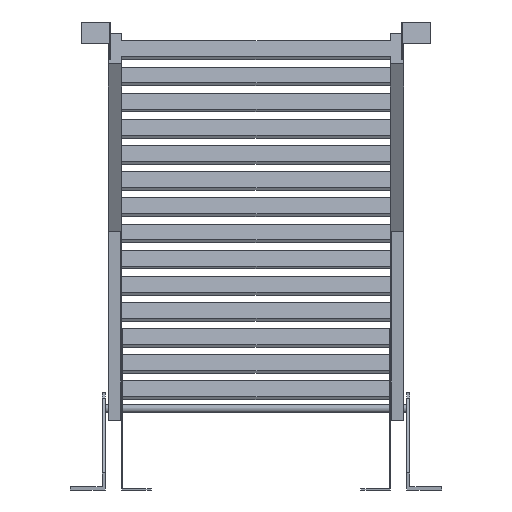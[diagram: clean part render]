
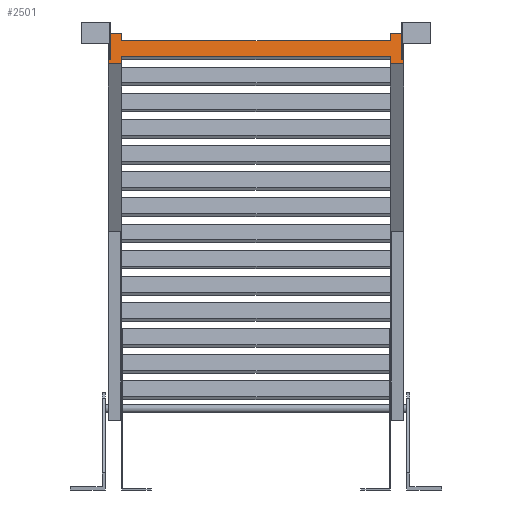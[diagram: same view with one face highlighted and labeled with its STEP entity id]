
A CAD part, front view. The second image highlights one B-rep face of the part: STEP entity #2501.
In plain terms, the highlighted planar face has unit normal (0, -0.985, 0.174).
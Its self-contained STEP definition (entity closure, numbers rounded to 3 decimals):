
#769=DIRECTION('',(1.,0.,0.));
#770=VECTOR('',#769,500.);
#771=CARTESIAN_POINT('',(-250.,-3488.227,805.214));
#772=LINE('',#771,#770);
#777=DIRECTION('',(0.,0.174,0.985));
#778=VECTOR('',#777,13.5);
#779=CARTESIAN_POINT('',(-250.,-3483.017,834.758));
#780=LINE('',#779,#778);
#781=DIRECTION('',(0.,-0.174,-0.985));
#782=VECTOR('',#781,13.5);
#783=CARTESIAN_POINT('',(250.,-3480.673,848.053));
#784=LINE('',#783,#782);
#785=DIRECTION('',(-1.,0.,0.));
#786=VECTOR('',#785,25.);
#787=CARTESIAN_POINT('',(275.,-3480.673,848.053));
#788=LINE('',#787,#786);
#789=DIRECTION('',(0.,0.174,0.985));
#790=VECTOR('',#789,57.);
#791=CARTESIAN_POINT('',(275.,-3490.571,791.919));
#792=LINE('',#791,#790);
#793=DIRECTION('',(1.,0.,0.));
#794=VECTOR('',#793,25.);
#795=CARTESIAN_POINT('',(250.,-3490.571,791.919));
#796=LINE('',#795,#794);
#797=DIRECTION('',(0.,-0.174,-0.985));
#798=VECTOR('',#797,13.5);
#799=CARTESIAN_POINT('',(250.,-3488.227,805.214));
#800=LINE('',#799,#798);
#801=DIRECTION('',(0.,0.174,0.985));
#802=VECTOR('',#801,13.5);
#803=CARTESIAN_POINT('',(-250.,-3490.571,791.919));
#804=LINE('',#803,#802);
#805=DIRECTION('',(1.,0.,0.));
#806=VECTOR('',#805,25.);
#807=CARTESIAN_POINT('',(-275.,-3490.571,791.919));
#808=LINE('',#807,#806);
#809=DIRECTION('',(0.,-0.174,-0.985));
#810=VECTOR('',#809,57.);
#811=CARTESIAN_POINT('',(-275.,-3480.673,848.053));
#812=LINE('',#811,#810);
#813=DIRECTION('',(-1.,0.,0.));
#814=VECTOR('',#813,25.);
#815=CARTESIAN_POINT('',(-250.,-3480.673,848.053));
#816=LINE('',#815,#814);
#817=DIRECTION('',(1.,0.,0.));
#818=VECTOR('',#817,2.);
#819=CARTESIAN_POINT('',(-273.,-3489.095,800.29));
#820=LINE('',#819,#818);
#821=DIRECTION('',(0.,0.174,0.985));
#822=VECTOR('',#821,40.);
#823=CARTESIAN_POINT('',(-271.,-3489.095,800.29));
#824=LINE('',#823,#822);
#825=DIRECTION('',(1.,0.,0.));
#826=VECTOR('',#825,2.);
#827=CARTESIAN_POINT('',(-273.,-3482.149,839.682));
#828=LINE('',#827,#826);
#829=DIRECTION('',(0.,0.174,0.985));
#830=VECTOR('',#829,40.);
#831=CARTESIAN_POINT('',(-273.,-3489.095,800.29));
#832=LINE('',#831,#830);
#833=DIRECTION('',(1.,0.,0.));
#834=VECTOR('',#833,2.);
#835=CARTESIAN_POINT('',(271.,-3489.095,800.29));
#836=LINE('',#835,#834);
#837=DIRECTION('',(0.,0.174,0.985));
#838=VECTOR('',#837,40.);
#839=CARTESIAN_POINT('',(273.,-3489.095,800.29));
#840=LINE('',#839,#838);
#841=DIRECTION('',(1.,0.,0.));
#842=VECTOR('',#841,2.);
#843=CARTESIAN_POINT('',(271.,-3482.149,839.682));
#844=LINE('',#843,#842);
#845=DIRECTION('',(0.,0.174,0.985));
#846=VECTOR('',#845,40.);
#847=CARTESIAN_POINT('',(271.,-3489.095,800.29));
#848=LINE('',#847,#846);
#853=DIRECTION('',(1.,0.,0.));
#854=VECTOR('',#853,500.);
#855=CARTESIAN_POINT('',(-250.,-3483.017,834.758));
#856=LINE('',#855,#854);
#1137=CARTESIAN_POINT('',(-250.,-3480.673,848.053));
#1138=CARTESIAN_POINT('',(-275.,-3480.673,848.053));
#1139=VERTEX_POINT('',#1137);
#1140=VERTEX_POINT('',#1138);
#1141=CARTESIAN_POINT('',(-275.,-3490.571,791.919));
#1142=CARTESIAN_POINT('',(-250.,-3490.571,791.919));
#1143=VERTEX_POINT('',#1141);
#1144=VERTEX_POINT('',#1142);
#1145=CARTESIAN_POINT('',(275.,-3490.571,791.919));
#1146=CARTESIAN_POINT('',(275.,-3480.673,848.053));
#1147=VERTEX_POINT('',#1145);
#1148=VERTEX_POINT('',#1146);
#1149=CARTESIAN_POINT('',(250.,-3490.571,791.919));
#1150=VERTEX_POINT('',#1149);
#1151=CARTESIAN_POINT('',(250.,-3480.673,848.053));
#1152=VERTEX_POINT('',#1151);
#1361=CARTESIAN_POINT('',(-250.,-3488.227,805.214));
#1363=VERTEX_POINT('',#1361);
#1365=CARTESIAN_POINT('',(-250.,-3483.017,834.758));
#1367=VERTEX_POINT('',#1365);
#1369=CARTESIAN_POINT('',(250.,-3488.227,805.214));
#1371=VERTEX_POINT('',#1369);
#1373=CARTESIAN_POINT('',(250.,-3483.017,834.758));
#1375=VERTEX_POINT('',#1373);
#1425=CARTESIAN_POINT('',(-273.,-3489.095,800.29));
#1426=CARTESIAN_POINT('',(-271.,-3489.095,800.29));
#1427=VERTEX_POINT('',#1425);
#1428=VERTEX_POINT('',#1426);
#1429=CARTESIAN_POINT('',(-273.,-3482.149,839.682));
#1430=CARTESIAN_POINT('',(-271.,-3482.149,839.682));
#1431=VERTEX_POINT('',#1429);
#1432=VERTEX_POINT('',#1430);
#1449=CARTESIAN_POINT('',(271.,-3489.095,800.29));
#1450=CARTESIAN_POINT('',(273.,-3489.095,800.29));
#1451=VERTEX_POINT('',#1449);
#1452=VERTEX_POINT('',#1450);
#1453=CARTESIAN_POINT('',(271.,-3482.149,839.682));
#1454=CARTESIAN_POINT('',(273.,-3482.149,839.682));
#1455=VERTEX_POINT('',#1453);
#1456=VERTEX_POINT('',#1454);
#2455=CARTESIAN_POINT('',(0.,-3520.743,620.802));
#2456=DIRECTION('',(0.,0.985,-0.174));
#2457=DIRECTION('',(1.,0.,0.));
#2458=AXIS2_PLACEMENT_3D('',#2455,#2456,#2457);
#2459=PLANE('',#2458);
#2460=ORIENTED_EDGE('',*,*,#1484,.F.);
#2462=ORIENTED_EDGE('',*,*,#2461,.T.);
#2463=ORIENTED_EDGE('',*,*,#1697,.F.);
#2465=ORIENTED_EDGE('',*,*,#2464,.F.);
#2467=ORIENTED_EDGE('',*,*,#2466,.F.);
#2469=ORIENTED_EDGE('',*,*,#2468,.F.);
#2470=ORIENTED_EDGE('',*,*,#1689,.F.);
#2471=ORIENTED_EDGE('',*,*,#2447,.F.);
#2472=ORIENTED_EDGE('',*,*,#1492,.F.);
#2474=ORIENTED_EDGE('',*,*,#2473,.F.);
#2476=ORIENTED_EDGE('',*,*,#2475,.F.);
#2478=ORIENTED_EDGE('',*,*,#2477,.F.);
#2479=EDGE_LOOP('',(#2460,#2462,#2463,#2465,#2467,#2469,#2470,#2471,#2472,#2474,
#2476,#2478));
#2480=FACE_OUTER_BOUND('',#2479,.F.);
#2482=ORIENTED_EDGE('',*,*,#2481,.T.);
#2484=ORIENTED_EDGE('',*,*,#2483,.T.);
#2486=ORIENTED_EDGE('',*,*,#2485,.F.);
#2488=ORIENTED_EDGE('',*,*,#2487,.F.);
#2489=EDGE_LOOP('',(#2482,#2484,#2486,#2488));
#2490=FACE_BOUND('',#2489,.F.);
#2492=ORIENTED_EDGE('',*,*,#2491,.T.);
#2494=ORIENTED_EDGE('',*,*,#2493,.T.);
#2496=ORIENTED_EDGE('',*,*,#2495,.F.);
#2498=ORIENTED_EDGE('',*,*,#2497,.F.);
#2499=EDGE_LOOP('',(#2492,#2494,#2496,#2498));
#2500=FACE_BOUND('',#2499,.F.);
#1484=EDGE_CURVE('',#1367,#1139,#780,.T.);
#1492=EDGE_CURVE('',#1144,#1363,#804,.T.);
#1689=EDGE_CURVE('',#1371,#1150,#800,.T.);
#1697=EDGE_CURVE('',#1152,#1375,#784,.T.);
#2447=EDGE_CURVE('',#1363,#1371,#772,.T.);
#2461=EDGE_CURVE('',#1367,#1375,#856,.T.);
#2464=EDGE_CURVE('',#1148,#1152,#788,.T.);
#2466=EDGE_CURVE('',#1147,#1148,#792,.T.);
#2468=EDGE_CURVE('',#1150,#1147,#796,.T.);
#2473=EDGE_CURVE('',#1143,#1144,#808,.T.);
#2475=EDGE_CURVE('',#1140,#1143,#812,.T.);
#2477=EDGE_CURVE('',#1139,#1140,#816,.T.);
#2481=EDGE_CURVE('',#1427,#1428,#820,.T.);
#2483=EDGE_CURVE('',#1428,#1432,#824,.T.);
#2485=EDGE_CURVE('',#1431,#1432,#828,.T.);
#2487=EDGE_CURVE('',#1427,#1431,#832,.T.);
#2491=EDGE_CURVE('',#1451,#1452,#836,.T.);
#2493=EDGE_CURVE('',#1452,#1456,#840,.T.);
#2495=EDGE_CURVE('',#1455,#1456,#844,.T.);
#2497=EDGE_CURVE('',#1451,#1455,#848,.T.);
#2501=ADVANCED_FACE('',(#2480,#2490,#2500),#2459,.F.);
